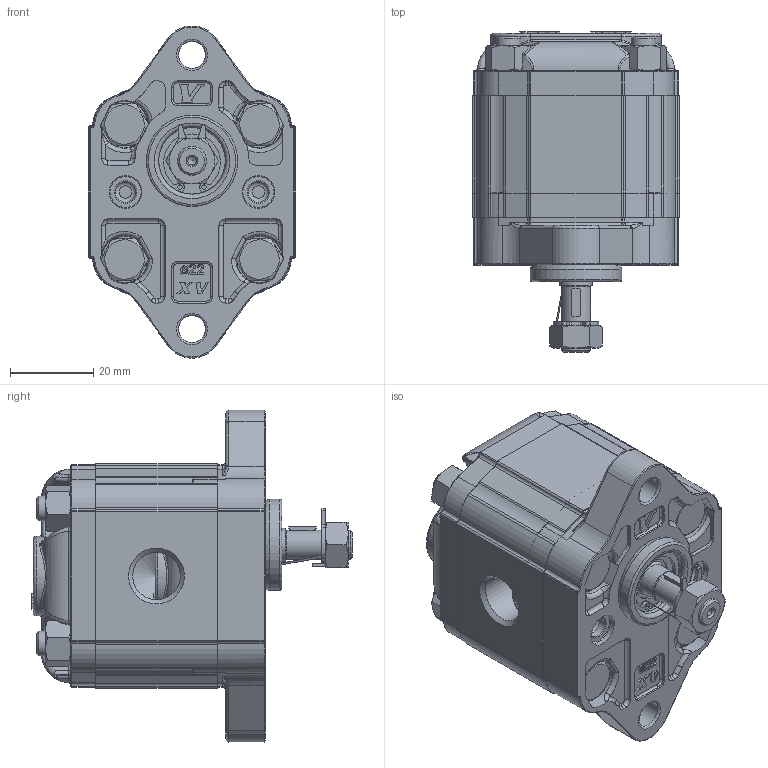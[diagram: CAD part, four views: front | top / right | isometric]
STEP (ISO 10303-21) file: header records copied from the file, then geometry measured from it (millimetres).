
FILE_DESCRIPTION( ( 'Unknown' ), '1' );
FILE_NAME( 'P:/montaggio_easy/output/STP/X0P0102ABBA.stp', 'Unknown', ( 'Unknown' ), ( 'Unknown' ), 'PSStep 14.0', 'Unknown', ' ' );
FILE_SCHEMA( ( 'AUTOMOTIVE_DESIGN { 1 0 10303 214 1 1 1 1 }' ) );
Length unit declared in the file: millimetre
Products named in the file (5): Assem1; X0P02; 0A; X0BBH29,3; XP001-A
Bounding box: 50 x 77.2 x 79.95 mm (x, y, z)
Volume: 248620.6 mm3; surface area: 69139.4 mm2
Topology: 8 solids, 10 shells, 3152 faces, 8226 edges, 5222 vertices
Faces by surface type: plane 1542, cylinder 770, extrusion 248, torus 230, bspline 180, cone 166, sphere 16
Full cylindrical faces by diameter (mm): 1.053 x4, 2 x2, 5 x4, 6 x8, 6.5 x8, 7 x4, 7.25 x2, 7.5 x4, 7.9 x4, 7.92 x2, 8 x4, 9.318 x2, 10 x8, 10.445 x2, 11 x2, 11.445 x4, 14 x2, 16 x2, 16.2 x2, 16.8 x2, 22 x2
Entity records: 67507 total; most frequent: CARTESIAN_POINT 16874, ORIENTED_EDGE 7940, DIRECTION 7703, EDGE_CURVE 3970, AXIS2_PLACEMENT_3D 2666, VERTEX_POINT 2569, VECTOR 2371, LINE 2247
